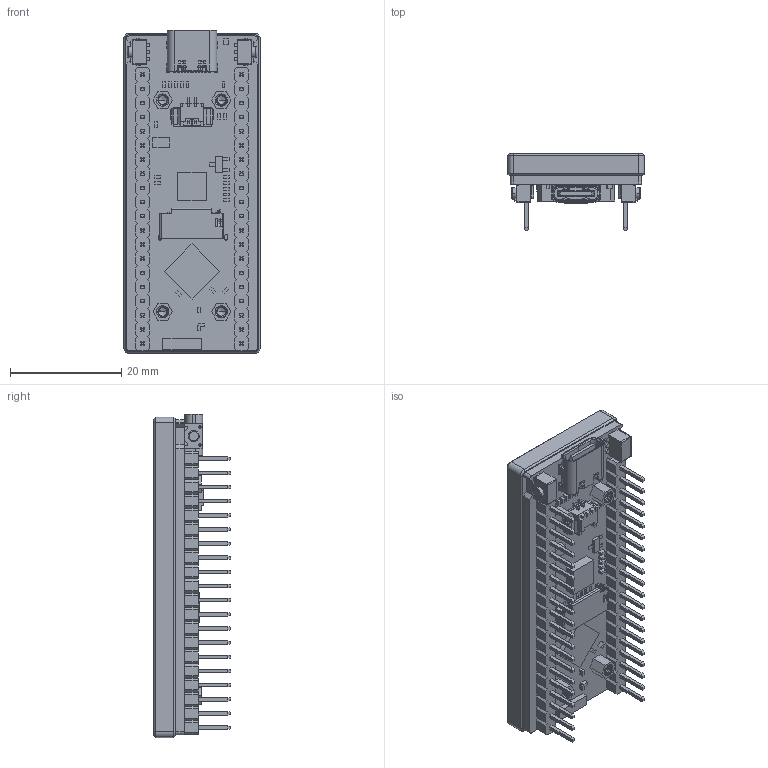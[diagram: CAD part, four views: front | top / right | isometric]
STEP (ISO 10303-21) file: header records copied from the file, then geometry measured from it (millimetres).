
FILE_DESCRIPTION((''),'2;1');
FILE_NAME('ESP32-S3-AMOLED-1_91_ASM','2025-03-21T19:54:20',('xiaojisheng'),(''),'CREO PARAMETRIC BY PTC INC, 2021063','CREO PARAMETRIC BY PTC INC, 2021063','');
FILE_SCHEMA(('CONFIG_CONTROL_DESIGN','SHAPE_APPEARANCE_LAYERS_GROUPS'));
Products named in the file (14): ESP32-S3-2INCH-AMOLED_PCB-0522; ESP32-S3-2INCH-PCBA-20240524; TYPE-C_16PIN-9X3X7_3; PIN_HEADER-2_54MM_1X20PIN; SWITCHER-4_5X3_3XH3_4; C3; HP1_25MM-2P-SMT-HORIZONTAL; CORE; CORE01; TF-CARD-BASE_SMT; ESP32-S3-AMOLED_1_91-PCBA-0522_ASM; HEX_STUDS-M2XH3XL3; ESP32-S3-AMOLED-1_91-V0; ESP32-S3-AMOLED-1_91_ASM
Assembly tree (18 placements, depth 3):
  ESP32-S3-AMOLED-1_91_ASM
    ESP32-S3-AMOLED_1_91-PCBA-0522_ASM
      ESP32-S3-2INCH-AMOLED_PCB-0522
      ESP32-S3-2INCH-PCBA-20240524
      TYPE-C_16PIN-9X3X7_3
      PIN_HEADER-2_54MM_1X20PIN  x2
      SWITCHER-4_5X3_3XH3_4  x2
      C3
      HP1_25MM-2P-SMT-HORIZONTAL
      CORE
      CORE01
      TF-CARD-BASE_SMT
    HEX_STUDS-M2XH3XL3  x4
    ESP32-S3-AMOLED-1_91-V0
Bounding box: 24.5 x 13.9 x 58 mm (x, y, z)
Volume: 6571.8 mm3; surface area: 12249.1 mm2
Topology: 26 solids, 28 shells, 3822 faces, 10185 edges, 6512 vertices
Faces by surface type: plane 3017, cylinder 712, cone 49, bspline 40, torus 4
Entity records: 124779 total; most frequent: CARTESIAN_POINT 19175, ORIENTED_EDGE 16386, DIRECTION 15330, EDGE_CURVE 8193, VECTOR 6790, LINE 6790, PRESENTATION_STYLE_ASSIGNMENT 6549, STYLED_ITEM 5862
